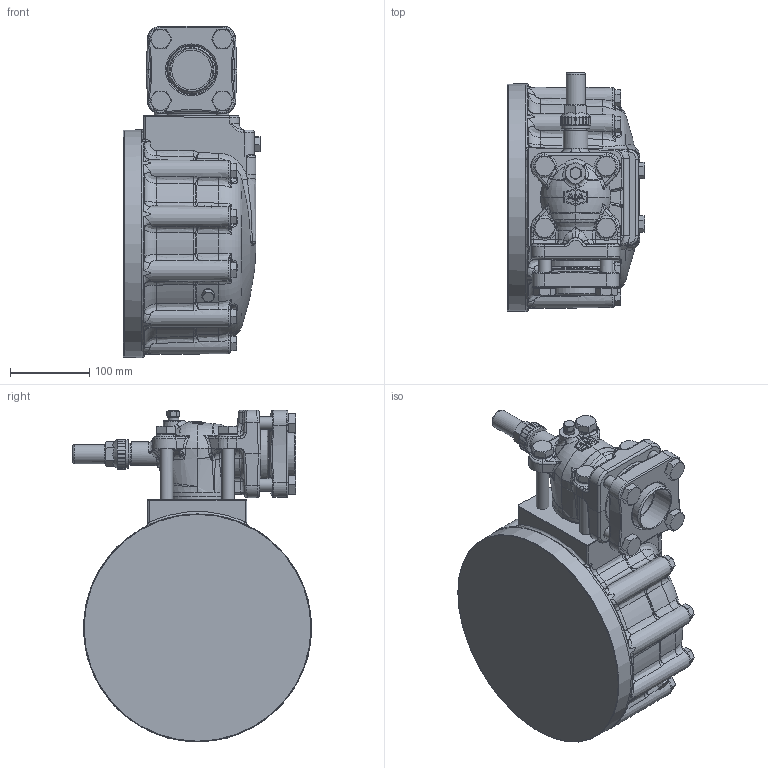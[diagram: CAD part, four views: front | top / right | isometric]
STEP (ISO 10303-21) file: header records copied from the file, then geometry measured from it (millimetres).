
FILE_DESCRIPTION(/* description */ (''),/* implementation_level */ '2;1');
FILE_NAME(/* name */ '4HE-25Y,4GE-30Y, 4FE-25Y, 4FE-35Y.stp',/* time_stamp */ '2024-06-26T16:35:54+02:00',/* author */ (''),/* organization */ (''),/* preprocessor_version */ 'ST-DEVELOPER v19.4',/* originating_system */ 'SIEMENS PLM Software NX2212.8901',/* authorisation */ '');
FILE_SCHEMA (('AUTOMOTIVE_DESIGN { 1 0 10303 214 3 1 1 1 }'));
Products named in the file (3): 200034501ugm001_00; 200020491ugm001_02; 200047785ugm001_02
Assembly tree (2 placements, depth 2):
  200047785ugm001_02
    200020491ugm001_02
    200034501ugm001_00
Bounding box: 173.1 x 301.04 x 417.68 mm (x, y, z)
Volume: 10627872.7 mm3; surface area: 461105.3 mm2
Topology: 2 solids, 3 shells, 2464 faces, 6209 edges, 3759 vertices
Faces by surface type: bspline 725, plane 720, extrusion 307, cylinder 229, cone 226, torus 200, sphere 57
Full cylindrical faces by diameter (mm): 13.7 x1, 13.716 x1, 14 x4, 16 x8, 16.6 x12, 17 x4, 24 x1, 27 x1, 36 x1, 50 x1, 54.2 x1, 60 x4, 61 x2, 62.5 x1, 75 x2, 76 x2, 286 x1
Entity records: 113060 total; most frequent: CARTESIAN_POINT 51868, ORIENTED_EDGE 11802, DIRECTION 8139, EDGE_CURVE 5901, VERTEX_POINT 3698, AXIS2_PLACEMENT_3D 2972, B_SPLINE_CURVE_WITH_KNOTS 2778, EDGE_LOOP 2729
